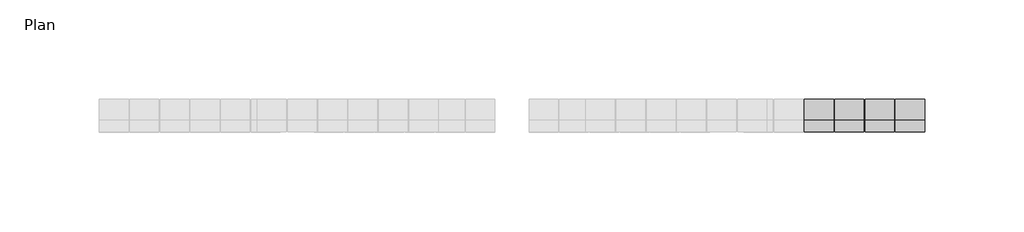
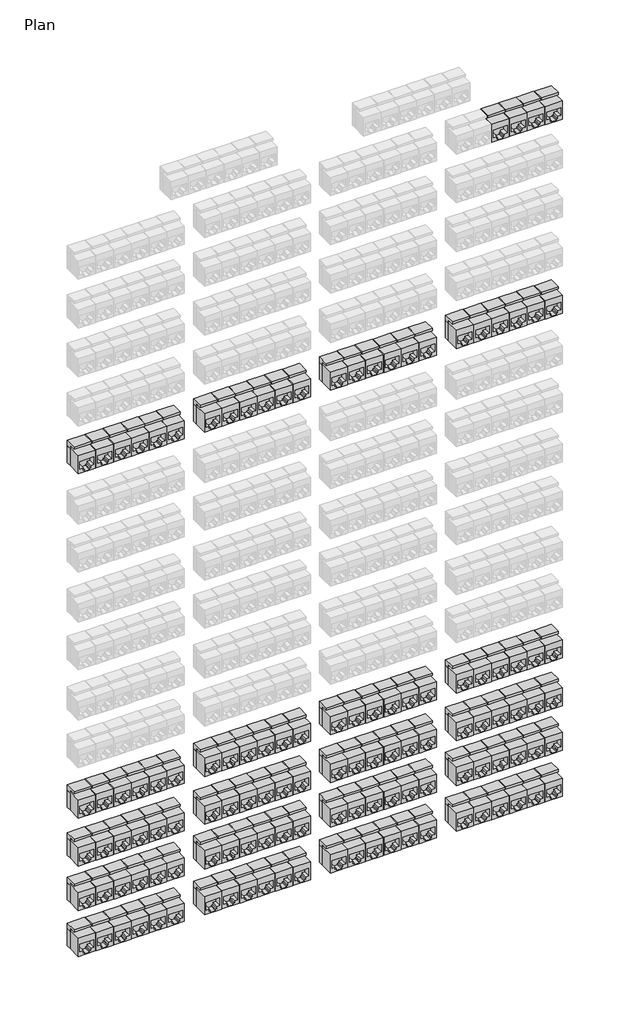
# One storey, part 3 of 3: 124 electric appliances.
"""IFC4 building model written with IfcOpenShell, lengths in millimetres."""

from ifc_helpers import new_model, si_unit, origin, place, context, project, spatial, transform, mapped, element, save
from components import cat_6_282648a7

model = new_model("IFC4")

# Units and contexts
model_context = context("Model", 3, world=origin())
ifc_project = project(units=[si_unit("LENGTHUNIT", "METRE", prefix="MILLI")], contexts=[model_context])

# Site, building, storey
site = spatial("IfcSite", under=ifc_project)
building = spatial("IfcBuilding", under=site)
storey = spatial("IfcBuildingStorey", under=building, Name="Plan", Elevation=0.0)

# Electric appliances
placement = place(None, origin())
cat_6_shape = cat_6_282648a7(model_context)
element("IfcElectricAppliance", 1, ObjectType="Data_Device-Network-Leviton-Connector-Copper-110_Style : CAT 6", at=placement, inside=storey, context=model_context, shape_type="MappedRepresentation", body=[
    mapped(cat_6_shape, transform((2946.484801, -458.5752001, 531.4969969), x_axis=(1.0, 0.0, 0.0), y_axis=(0.0, 0.0, 1.0), z_axis=(0.0, -1.0, 0.0))),
])
element("IfcElectricAppliance", 2, ObjectType="Data_Device-Network-Leviton-Connector-Copper-110_Style : CAT 6", at=placement, inside=storey, context=model_context, shape_type="MappedRepresentation", body=[
    mapped(cat_6_shape, transform((2961.724801, -458.5752001, 531.4969969), x_axis=(1.0, 0.0, 0.0), y_axis=(0.0, 0.0, 1.0), z_axis=(0.0, -1.0, 0.0))),
])
element("IfcElectricAppliance", 3, ObjectType="Data_Device-Network-Leviton-Connector-Copper-110_Style : CAT 6", at=placement, inside=storey, context=model_context, shape_type="MappedRepresentation", body=[
    mapped(cat_6_shape, transform((2976.964801, -458.5752001, 531.4969969), x_axis=(1.0, 0.0, 0.0), y_axis=(0.0, 0.0, 1.0), z_axis=(0.0, -1.0, 0.0))),
])
element("IfcElectricAppliance", 4, ObjectType="Data_Device-Network-Leviton-Connector-Copper-110_Style : CAT 6", at=placement, inside=storey, context=model_context, shape_type="MappedRepresentation", body=[
    mapped(cat_6_shape, transform((2992.204801, -458.5752001, 531.4969969), x_axis=(1.0, 0.0, 0.0), y_axis=(0.0, 0.0, 1.0), z_axis=(0.0, -1.0, 0.0))),
])
element("IfcElectricAppliance", 5, ObjectType="Data_Device-Network-Leviton-Connector-Copper-110_Style : CAT 6", at=placement, inside=storey, context=model_context, shape_type="MappedRepresentation", body=[
    mapped(cat_6_shape, transform((2592.154801, -458.5752001, 355.5488408), x_axis=(1.0, 0.0, 0.0), y_axis=(0.0, 0.0, 1.0), z_axis=(0.0, -1.0, 0.0))),
])
element("IfcElectricAppliance", 6, ObjectType="Data_Device-Network-Leviton-Connector-Copper-110_Style : CAT 6", at=placement, inside=storey, context=model_context, shape_type="MappedRepresentation", body=[
    mapped(cat_6_shape, transform((2607.394801, -458.5752001, 355.5488408), x_axis=(1.0, 0.0, 0.0), y_axis=(0.0, 0.0, 1.0), z_axis=(0.0, -1.0, 0.0))),
])
element("IfcElectricAppliance", 7, ObjectType="Data_Device-Network-Leviton-Connector-Copper-110_Style : CAT 6", at=placement, inside=storey, context=model_context, shape_type="MappedRepresentation", body=[
    mapped(cat_6_shape, transform((2622.634801, -458.5752001, 355.5488408), x_axis=(1.0, 0.0, 0.0), y_axis=(0.0, 0.0, 1.0), z_axis=(0.0, -1.0, 0.0))),
])
element("IfcElectricAppliance", 8, ObjectType="Data_Device-Network-Leviton-Connector-Copper-110_Style : CAT 6", at=placement, inside=storey, context=model_context, shape_type="MappedRepresentation", body=[
    mapped(cat_6_shape, transform((2637.874801, -458.5752001, 355.5488408), x_axis=(1.0, 0.0, 0.0), y_axis=(0.0, 0.0, 1.0), z_axis=(0.0, -1.0, 0.0))),
])
element("IfcElectricAppliance", 9, ObjectType="Data_Device-Network-Leviton-Connector-Copper-110_Style : CAT 6", at=placement, inside=storey, context=model_context, shape_type="MappedRepresentation", body=[
    mapped(cat_6_shape, transform((2653.114801, -458.5752001, 355.5488408), x_axis=(1.0, 0.0, 0.0), y_axis=(0.0, 0.0, 1.0), z_axis=(0.0, -1.0, 0.0))),
])
element("IfcElectricAppliance", 10, ObjectType="Data_Device-Network-Leviton-Connector-Copper-110_Style : CAT 6", at=placement, inside=storey, context=model_context, shape_type="MappedRepresentation", body=[
    mapped(cat_6_shape, transform((2668.354801, -458.5752001, 355.5488408), x_axis=(1.0, 0.0, 0.0), y_axis=(0.0, 0.0, 1.0), z_axis=(0.0, -1.0, 0.0))),
])
element("IfcElectricAppliance", 11, ObjectType="Data_Device-Network-Leviton-Connector-Copper-110_Style : CAT 6", at=placement, inside=storey, context=model_context, shape_type="MappedRepresentation", body=[
    mapped(cat_6_shape, transform((2700.104801, -458.5752001, 355.5488408), x_axis=(1.0, 0.0, 0.0), y_axis=(0.0, 0.0, 1.0), z_axis=(0.0, -1.0, 0.0))),
])
element("IfcElectricAppliance", 12, ObjectType="Data_Device-Network-Leviton-Connector-Copper-110_Style : CAT 6", at=placement, inside=storey, context=model_context, shape_type="MappedRepresentation", body=[
    mapped(cat_6_shape, transform((2715.344801, -458.5752001, 355.5488408), x_axis=(1.0, 0.0, 0.0), y_axis=(0.0, 0.0, 1.0), z_axis=(0.0, -1.0, 0.0))),
])
element("IfcElectricAppliance", 13, ObjectType="Data_Device-Network-Leviton-Connector-Copper-110_Style : CAT 6", at=placement, inside=storey, context=model_context, shape_type="MappedRepresentation", body=[
    mapped(cat_6_shape, transform((2730.584801, -458.5752001, 355.5488408), x_axis=(1.0, 0.0, 0.0), y_axis=(0.0, 0.0, 1.0), z_axis=(0.0, -1.0, 0.0))),
])
element("IfcElectricAppliance", 14, ObjectType="Data_Device-Network-Leviton-Connector-Copper-110_Style : CAT 6", at=placement, inside=storey, context=model_context, shape_type="MappedRepresentation", body=[
    mapped(cat_6_shape, transform((2745.824801, -458.5752001, 355.5488408), x_axis=(1.0, 0.0, 0.0), y_axis=(0.0, 0.0, 1.0), z_axis=(0.0, -1.0, 0.0))),
])
element("IfcElectricAppliance", 15, ObjectType="Data_Device-Network-Leviton-Connector-Copper-110_Style : CAT 6", at=placement, inside=storey, context=model_context, shape_type="MappedRepresentation", body=[
    mapped(cat_6_shape, transform((2761.064801, -458.5752001, 355.5488408), x_axis=(1.0, 0.0, 0.0), y_axis=(0.0, 0.0, 1.0), z_axis=(0.0, -1.0, 0.0))),
])
element("IfcElectricAppliance", 16, ObjectType="Data_Device-Network-Leviton-Connector-Copper-110_Style : CAT 6", at=placement, inside=storey, context=model_context, shape_type="MappedRepresentation", body=[
    mapped(cat_6_shape, transform((2776.304801, -458.5752001, 355.5488408), x_axis=(1.0, 0.0, 0.0), y_axis=(0.0, 0.0, 1.0), z_axis=(0.0, -1.0, 0.0))),
])
element("IfcElectricAppliance", 17, ObjectType="Data_Device-Network-Leviton-Connector-Copper-110_Style : CAT 6", at=placement, inside=storey, context=model_context, shape_type="MappedRepresentation", body=[
    mapped(cat_6_shape, transform((2808.054801, -458.5752001, 355.5488408), x_axis=(1.0, 0.0, 0.0), y_axis=(0.0, 0.0, 1.0), z_axis=(0.0, -1.0, 0.0))),
])
element("IfcElectricAppliance", 18, ObjectType="Data_Device-Network-Leviton-Connector-Copper-110_Style : CAT 6", at=placement, inside=storey, context=model_context, shape_type="MappedRepresentation", body=[
    mapped(cat_6_shape, transform((2838.534801, -458.5752001, 355.5488408), x_axis=(1.0, 0.0, 0.0), y_axis=(0.0, 0.0, 1.0), z_axis=(0.0, -1.0, 0.0))),
])
element("IfcElectricAppliance", 19, ObjectType="Data_Device-Network-Leviton-Connector-Copper-110_Style : CAT 6", at=placement, inside=storey, context=model_context, shape_type="MappedRepresentation", body=[
    mapped(cat_6_shape, transform((2853.774801, -458.5752001, 355.5488408), x_axis=(1.0, 0.0, 0.0), y_axis=(0.0, 0.0, 1.0), z_axis=(0.0, -1.0, 0.0))),
])
element("IfcElectricAppliance", 20, ObjectType="Data_Device-Network-Leviton-Connector-Copper-110_Style : CAT 6", at=placement, inside=storey, context=model_context, shape_type="MappedRepresentation", body=[
    mapped(cat_6_shape, transform((2869.014801, -458.5752001, 355.5488408), x_axis=(1.0, 0.0, 0.0), y_axis=(0.0, 0.0, 1.0), z_axis=(0.0, -1.0, 0.0))),
])
element("IfcElectricAppliance", 21, ObjectType="Data_Device-Network-Leviton-Connector-Copper-110_Style : CAT 6", at=placement, inside=storey, context=model_context, shape_type="MappedRepresentation", body=[
    mapped(cat_6_shape, transform((2884.254801, -458.5752001, 355.5488408), x_axis=(1.0, 0.0, 0.0), y_axis=(0.0, 0.0, 1.0), z_axis=(0.0, -1.0, 0.0))),
])
element("IfcElectricAppliance", 22, ObjectType="Data_Device-Network-Leviton-Connector-Copper-110_Style : CAT 6", at=placement, inside=storey, context=model_context, shape_type="MappedRepresentation", body=[
    mapped(cat_6_shape, transform((2916.004801, -458.5752001, 355.5488408), x_axis=(1.0, 0.0, 0.0), y_axis=(0.0, 0.0, 1.0), z_axis=(0.0, -1.0, 0.0))),
])
element("IfcElectricAppliance", 23, ObjectType="Data_Device-Network-Leviton-Connector-Copper-110_Style : CAT 6", at=placement, inside=storey, context=model_context, shape_type="MappedRepresentation", body=[
    mapped(cat_6_shape, transform((2931.244801, -458.5752001, 355.5488408), x_axis=(1.0, 0.0, 0.0), y_axis=(0.0, 0.0, 1.0), z_axis=(0.0, -1.0, 0.0))),
])
element("IfcElectricAppliance", 24, ObjectType="Data_Device-Network-Leviton-Connector-Copper-110_Style : CAT 6", at=placement, inside=storey, context=model_context, shape_type="MappedRepresentation", body=[
    mapped(cat_6_shape, transform((2946.484801, -458.5752001, 355.5488408), x_axis=(1.0, 0.0, 0.0), y_axis=(0.0, 0.0, 1.0), z_axis=(0.0, -1.0, 0.0))),
])
element("IfcElectricAppliance", 25, ObjectType="Data_Device-Network-Leviton-Connector-Copper-110_Style : CAT 6", at=placement, inside=storey, context=model_context, shape_type="MappedRepresentation", body=[
    mapped(cat_6_shape, transform((2961.724801, -458.5752001, 355.5488408), x_axis=(1.0, 0.0, 0.0), y_axis=(0.0, 0.0, 1.0), z_axis=(0.0, -1.0, 0.0))),
])
element("IfcElectricAppliance", 26, ObjectType="Data_Device-Network-Leviton-Connector-Copper-110_Style : CAT 6", at=placement, inside=storey, context=model_context, shape_type="MappedRepresentation", body=[
    mapped(cat_6_shape, transform((2976.964801, -458.5752001, 355.5488408), x_axis=(1.0, 0.0, 0.0), y_axis=(0.0, 0.0, 1.0), z_axis=(0.0, -1.0, 0.0))),
])
element("IfcElectricAppliance", 27, ObjectType="Data_Device-Network-Leviton-Connector-Copper-110_Style : CAT 6", at=placement, inside=storey, context=model_context, shape_type="MappedRepresentation", body=[
    mapped(cat_6_shape, transform((2992.204801, -458.5752001, 355.5488408), x_axis=(1.0, 0.0, 0.0), y_axis=(0.0, 0.0, 1.0), z_axis=(0.0, -1.0, 0.0))),
])
element("IfcElectricAppliance", 28, ObjectType="Data_Device-Network-Leviton-Connector-Copper-110_Style : CAT 6", at=placement, inside=storey, context=model_context, shape_type="MappedRepresentation", body=[
    mapped(cat_6_shape, transform((2823.294801, -458.5752001, 355.5488408), x_axis=(1.0, 0.0, 0.0), y_axis=(0.0, 0.0, 1.0), z_axis=(0.0, -1.0, 0.0))),
])
element("IfcElectricAppliance", 29, ObjectType="Data_Device-Network-Leviton-Connector-Copper-110_Style : CAT 6", at=placement, inside=storey, context=model_context, shape_type="MappedRepresentation", body=[
    mapped(cat_6_shape, transform((2592.154801, -458.5752001, 43.6789347), x_axis=(1.0, 0.0, 0.0), y_axis=(0.0, 0.0, 1.0), z_axis=(0.0, -1.0, 0.0))),
])
element("IfcElectricAppliance", 30, ObjectType="Data_Device-Network-Leviton-Connector-Copper-110_Style : CAT 6", at=placement, inside=storey, context=model_context, shape_type="MappedRepresentation", body=[
    mapped(cat_6_shape, transform((2607.394801, -458.5752001, 43.6789347), x_axis=(1.0, 0.0, 0.0), y_axis=(0.0, 0.0, 1.0), z_axis=(0.0, -1.0, 0.0))),
])
element("IfcElectricAppliance", 31, ObjectType="Data_Device-Network-Leviton-Connector-Copper-110_Style : CAT 6", at=placement, inside=storey, context=model_context, shape_type="MappedRepresentation", body=[
    mapped(cat_6_shape, transform((2622.634801, -458.5752001, 43.6789347), x_axis=(1.0, 0.0, 0.0), y_axis=(0.0, 0.0, 1.0), z_axis=(0.0, -1.0, 0.0))),
])
element("IfcElectricAppliance", 32, ObjectType="Data_Device-Network-Leviton-Connector-Copper-110_Style : CAT 6", at=placement, inside=storey, context=model_context, shape_type="MappedRepresentation", body=[
    mapped(cat_6_shape, transform((2637.874801, -458.5752001, 43.6789347), x_axis=(1.0, 0.0, 0.0), y_axis=(0.0, 0.0, 1.0), z_axis=(0.0, -1.0, 0.0))),
])
element("IfcElectricAppliance", 33, ObjectType="Data_Device-Network-Leviton-Connector-Copper-110_Style : CAT 6", at=placement, inside=storey, context=model_context, shape_type="MappedRepresentation", body=[
    mapped(cat_6_shape, transform((2653.114801, -458.5752001, 43.6789347), x_axis=(1.0, 0.0, 0.0), y_axis=(0.0, 0.0, 1.0), z_axis=(0.0, -1.0, 0.0))),
])
element("IfcElectricAppliance", 34, ObjectType="Data_Device-Network-Leviton-Connector-Copper-110_Style : CAT 6", at=placement, inside=storey, context=model_context, shape_type="MappedRepresentation", body=[
    mapped(cat_6_shape, transform((2668.354801, -458.5752001, 43.6789347), x_axis=(1.0, 0.0, 0.0), y_axis=(0.0, 0.0, 1.0), z_axis=(0.0, -1.0, 0.0))),
])
element("IfcElectricAppliance", 35, ObjectType="Data_Device-Network-Leviton-Connector-Copper-110_Style : CAT 6", at=placement, inside=storey, context=model_context, shape_type="MappedRepresentation", body=[
    mapped(cat_6_shape, transform((2916.004801, -458.5752001, 43.6789347), x_axis=(1.0, 0.0, 0.0), y_axis=(0.0, 0.0, 1.0), z_axis=(0.0, -1.0, 0.0))),
])
element("IfcElectricAppliance", 36, ObjectType="Data_Device-Network-Leviton-Connector-Copper-110_Style : CAT 6", at=placement, inside=storey, context=model_context, shape_type="MappedRepresentation", body=[
    mapped(cat_6_shape, transform((2931.244801, -458.5752001, 43.6789347), x_axis=(1.0, 0.0, 0.0), y_axis=(0.0, 0.0, 1.0), z_axis=(0.0, -1.0, 0.0))),
])
element("IfcElectricAppliance", 37, ObjectType="Data_Device-Network-Leviton-Connector-Copper-110_Style : CAT 6", at=placement, inside=storey, context=model_context, shape_type="MappedRepresentation", body=[
    mapped(cat_6_shape, transform((2946.484801, -458.5752001, 43.6789347), x_axis=(1.0, 0.0, 0.0), y_axis=(0.0, 0.0, 1.0), z_axis=(0.0, -1.0, 0.0))),
])
element("IfcElectricAppliance", 38, ObjectType="Data_Device-Network-Leviton-Connector-Copper-110_Style : CAT 6", at=placement, inside=storey, context=model_context, shape_type="MappedRepresentation", body=[
    mapped(cat_6_shape, transform((2961.724801, -458.5752001, 43.6789347), x_axis=(1.0, 0.0, 0.0), y_axis=(0.0, 0.0, 1.0), z_axis=(0.0, -1.0, 0.0))),
])
element("IfcElectricAppliance", 39, ObjectType="Data_Device-Network-Leviton-Connector-Copper-110_Style : CAT 6", at=placement, inside=storey, context=model_context, shape_type="MappedRepresentation", body=[
    mapped(cat_6_shape, transform((2976.964801, -458.5752001, 43.6789347), x_axis=(1.0, 0.0, 0.0), y_axis=(0.0, 0.0, 1.0), z_axis=(0.0, -1.0, 0.0))),
])
element("IfcElectricAppliance", 40, ObjectType="Data_Device-Network-Leviton-Connector-Copper-110_Style : CAT 6", at=placement, inside=storey, context=model_context, shape_type="MappedRepresentation", body=[
    mapped(cat_6_shape, transform((2992.204801, -458.5752001, 43.6789347), x_axis=(1.0, 0.0, 0.0), y_axis=(0.0, 0.0, 1.0), z_axis=(0.0, -1.0, 0.0))),
])
element("IfcElectricAppliance", 41, ObjectType="Data_Device-Network-Leviton-Connector-Copper-110_Style : CAT 6", at=placement, inside=storey, context=model_context, shape_type="MappedRepresentation", body=[
    mapped(cat_6_shape, transform((2700.104801, -458.5752001, 43.6789347), x_axis=(1.0, 0.0, 0.0), y_axis=(0.0, 0.0, 1.0), z_axis=(0.0, -1.0, 0.0))),
])
element("IfcElectricAppliance", 42, ObjectType="Data_Device-Network-Leviton-Connector-Copper-110_Style : CAT 6", at=placement, inside=storey, context=model_context, shape_type="MappedRepresentation", body=[
    mapped(cat_6_shape, transform((2715.344801, -458.5752001, 43.6789347), x_axis=(1.0, 0.0, 0.0), y_axis=(0.0, 0.0, 1.0), z_axis=(0.0, -1.0, 0.0))),
])
element("IfcElectricAppliance", 43, ObjectType="Data_Device-Network-Leviton-Connector-Copper-110_Style : CAT 6", at=placement, inside=storey, context=model_context, shape_type="MappedRepresentation", body=[
    mapped(cat_6_shape, transform((2730.584801, -458.5752001, 43.6789347), x_axis=(1.0, 0.0, 0.0), y_axis=(0.0, 0.0, 1.0), z_axis=(0.0, -1.0, 0.0))),
])
element("IfcElectricAppliance", 44, ObjectType="Data_Device-Network-Leviton-Connector-Copper-110_Style : CAT 6", at=placement, inside=storey, context=model_context, shape_type="MappedRepresentation", body=[
    mapped(cat_6_shape, transform((2745.824801, -458.5752001, 43.6789347), x_axis=(1.0, 0.0, 0.0), y_axis=(0.0, 0.0, 1.0), z_axis=(0.0, -1.0, 0.0))),
])
element("IfcElectricAppliance", 45, ObjectType="Data_Device-Network-Leviton-Connector-Copper-110_Style : CAT 6", at=placement, inside=storey, context=model_context, shape_type="MappedRepresentation", body=[
    mapped(cat_6_shape, transform((2761.064801, -458.5752001, 43.6789347), x_axis=(1.0, 0.0, 0.0), y_axis=(0.0, 0.0, 1.0), z_axis=(0.0, -1.0, 0.0))),
])
element("IfcElectricAppliance", 46, ObjectType="Data_Device-Network-Leviton-Connector-Copper-110_Style : CAT 6", at=placement, inside=storey, context=model_context, shape_type="MappedRepresentation", body=[
    mapped(cat_6_shape, transform((2776.304801, -458.5752001, 43.6789347), x_axis=(1.0, 0.0, 0.0), y_axis=(0.0, 0.0, 1.0), z_axis=(0.0, -1.0, 0.0))),
])
element("IfcElectricAppliance", 47, ObjectType="Data_Device-Network-Leviton-Connector-Copper-110_Style : CAT 6", at=placement, inside=storey, context=model_context, shape_type="MappedRepresentation", body=[
    mapped(cat_6_shape, transform((2808.054801, -458.5752001, 43.6789347), x_axis=(1.0, 0.0, 0.0), y_axis=(0.0, 0.0, 1.0), z_axis=(0.0, -1.0, 0.0))),
])
element("IfcElectricAppliance", 48, ObjectType="Data_Device-Network-Leviton-Connector-Copper-110_Style : CAT 6", at=placement, inside=storey, context=model_context, shape_type="MappedRepresentation", body=[
    mapped(cat_6_shape, transform((2823.294801, -458.5752001, 43.6789347), x_axis=(1.0, 0.0, 0.0), y_axis=(0.0, 0.0, 1.0), z_axis=(0.0, -1.0, 0.0))),
])
element("IfcElectricAppliance", 49, ObjectType="Data_Device-Network-Leviton-Connector-Copper-110_Style : CAT 6", at=placement, inside=storey, context=model_context, shape_type="MappedRepresentation", body=[
    mapped(cat_6_shape, transform((2838.534801, -458.5752001, 43.6789347), x_axis=(1.0, 0.0, 0.0), y_axis=(0.0, 0.0, 1.0), z_axis=(0.0, -1.0, 0.0))),
])
element("IfcElectricAppliance", 50, ObjectType="Data_Device-Network-Leviton-Connector-Copper-110_Style : CAT 6", at=placement, inside=storey, context=model_context, shape_type="MappedRepresentation", body=[
    mapped(cat_6_shape, transform((2853.774801, -458.5752001, 43.6789347), x_axis=(1.0, 0.0, 0.0), y_axis=(0.0, 0.0, 1.0), z_axis=(0.0, -1.0, 0.0))),
])
element("IfcElectricAppliance", 51, ObjectType="Data_Device-Network-Leviton-Connector-Copper-110_Style : CAT 6", at=placement, inside=storey, context=model_context, shape_type="MappedRepresentation", body=[
    mapped(cat_6_shape, transform((2869.014801, -458.5752001, 43.6789347), x_axis=(1.0, 0.0, 0.0), y_axis=(0.0, 0.0, 1.0), z_axis=(0.0, -1.0, 0.0))),
])
element("IfcElectricAppliance", 52, ObjectType="Data_Device-Network-Leviton-Connector-Copper-110_Style : CAT 6", at=placement, inside=storey, context=model_context, shape_type="MappedRepresentation", body=[
    mapped(cat_6_shape, transform((2884.254801, -458.5752001, 43.6789347), x_axis=(1.0, 0.0, 0.0), y_axis=(0.0, 0.0, 1.0), z_axis=(0.0, -1.0, 0.0))),
])
element("IfcElectricAppliance", 53, ObjectType="Data_Device-Network-Leviton-Connector-Copper-110_Style : CAT 6", at=placement, inside=storey, context=model_context, shape_type="MappedRepresentation", body=[
    mapped(cat_6_shape, transform((2592.154801, -458.5752001, 0.4989347), x_axis=(1.0, 0.0, 0.0), y_axis=(0.0, 0.0, 1.0), z_axis=(0.0, -1.0, 0.0))),
])
element("IfcElectricAppliance", 54, ObjectType="Data_Device-Network-Leviton-Connector-Copper-110_Style : CAT 6", at=placement, inside=storey, context=model_context, shape_type="MappedRepresentation", body=[
    mapped(cat_6_shape, transform((2607.394801, -458.5752001, 0.4989347), x_axis=(1.0, 0.0, 0.0), y_axis=(0.0, 0.0, 1.0), z_axis=(0.0, -1.0, 0.0))),
])
element("IfcElectricAppliance", 55, ObjectType="Data_Device-Network-Leviton-Connector-Copper-110_Style : CAT 6", at=placement, inside=storey, context=model_context, shape_type="MappedRepresentation", body=[
    mapped(cat_6_shape, transform((2622.634801, -458.5752001, 0.4989347), x_axis=(1.0, 0.0, 0.0), y_axis=(0.0, 0.0, 1.0), z_axis=(0.0, -1.0, 0.0))),
])
element("IfcElectricAppliance", 56, ObjectType="Data_Device-Network-Leviton-Connector-Copper-110_Style : CAT 6", at=placement, inside=storey, context=model_context, shape_type="MappedRepresentation", body=[
    mapped(cat_6_shape, transform((2637.874801, -458.5752001, 0.4989347), x_axis=(1.0, 0.0, 0.0), y_axis=(0.0, 0.0, 1.0), z_axis=(0.0, -1.0, 0.0))),
])
element("IfcElectricAppliance", 57, ObjectType="Data_Device-Network-Leviton-Connector-Copper-110_Style : CAT 6", at=placement, inside=storey, context=model_context, shape_type="MappedRepresentation", body=[
    mapped(cat_6_shape, transform((2653.114801, -458.5752001, 0.4989347), x_axis=(1.0, 0.0, 0.0), y_axis=(0.0, 0.0, 1.0), z_axis=(0.0, -1.0, 0.0))),
])
element("IfcElectricAppliance", 58, ObjectType="Data_Device-Network-Leviton-Connector-Copper-110_Style : CAT 6", at=placement, inside=storey, context=model_context, shape_type="MappedRepresentation", body=[
    mapped(cat_6_shape, transform((2668.354801, -458.5752001, 0.4989347), x_axis=(1.0, 0.0, 0.0), y_axis=(0.0, 0.0, 1.0), z_axis=(0.0, -1.0, 0.0))),
])
element("IfcElectricAppliance", 59, ObjectType="Data_Device-Network-Leviton-Connector-Copper-110_Style : CAT 6", at=placement, inside=storey, context=model_context, shape_type="MappedRepresentation", body=[
    mapped(cat_6_shape, transform((2700.104801, -458.5752001, 0.4989347), x_axis=(1.0, 0.0, 0.0), y_axis=(0.0, 0.0, 1.0), z_axis=(0.0, -1.0, 0.0))),
])
element("IfcElectricAppliance", 60, ObjectType="Data_Device-Network-Leviton-Connector-Copper-110_Style : CAT 6", at=placement, inside=storey, context=model_context, shape_type="MappedRepresentation", body=[
    mapped(cat_6_shape, transform((2715.344801, -458.5752001, 0.4989347), x_axis=(1.0, 0.0, 0.0), y_axis=(0.0, 0.0, 1.0), z_axis=(0.0, -1.0, 0.0))),
])
element("IfcElectricAppliance", 61, ObjectType="Data_Device-Network-Leviton-Connector-Copper-110_Style : CAT 6", at=placement, inside=storey, context=model_context, shape_type="MappedRepresentation", body=[
    mapped(cat_6_shape, transform((2730.584801, -458.5752001, 0.4989347), x_axis=(1.0, 0.0, 0.0), y_axis=(0.0, 0.0, 1.0), z_axis=(0.0, -1.0, 0.0))),
])
element("IfcElectricAppliance", 62, ObjectType="Data_Device-Network-Leviton-Connector-Copper-110_Style : CAT 6", at=placement, inside=storey, context=model_context, shape_type="MappedRepresentation", body=[
    mapped(cat_6_shape, transform((2745.824801, -458.5752001, 0.4989347), x_axis=(1.0, 0.0, 0.0), y_axis=(0.0, 0.0, 1.0), z_axis=(0.0, -1.0, 0.0))),
])
element("IfcElectricAppliance", 63, ObjectType="Data_Device-Network-Leviton-Connector-Copper-110_Style : CAT 6", at=placement, inside=storey, context=model_context, shape_type="MappedRepresentation", body=[
    mapped(cat_6_shape, transform((2761.064801, -458.5752001, 0.4989347), x_axis=(1.0, 0.0, 0.0), y_axis=(0.0, 0.0, 1.0), z_axis=(0.0, -1.0, 0.0))),
])
element("IfcElectricAppliance", 64, ObjectType="Data_Device-Network-Leviton-Connector-Copper-110_Style : CAT 6", at=placement, inside=storey, context=model_context, shape_type="MappedRepresentation", body=[
    mapped(cat_6_shape, transform((2776.304801, -458.5752001, 0.4989347), x_axis=(1.0, 0.0, 0.0), y_axis=(0.0, 0.0, 1.0), z_axis=(0.0, -1.0, 0.0))),
])
element("IfcElectricAppliance", 65, ObjectType="Data_Device-Network-Leviton-Connector-Copper-110_Style : CAT 6", at=placement, inside=storey, context=model_context, shape_type="MappedRepresentation", body=[
    mapped(cat_6_shape, transform((2808.054801, -458.5752001, 0.4989347), x_axis=(1.0, 0.0, 0.0), y_axis=(0.0, 0.0, 1.0), z_axis=(0.0, -1.0, 0.0))),
])
element("IfcElectricAppliance", 66, ObjectType="Data_Device-Network-Leviton-Connector-Copper-110_Style : CAT 6", at=placement, inside=storey, context=model_context, shape_type="MappedRepresentation", body=[
    mapped(cat_6_shape, transform((2838.534801, -458.5752001, 0.4989347), x_axis=(1.0, 0.0, 0.0), y_axis=(0.0, 0.0, 1.0), z_axis=(0.0, -1.0, 0.0))),
])
element("IfcElectricAppliance", 67, ObjectType="Data_Device-Network-Leviton-Connector-Copper-110_Style : CAT 6", at=placement, inside=storey, context=model_context, shape_type="MappedRepresentation", body=[
    mapped(cat_6_shape, transform((2853.774801, -458.5752001, 0.4989347), x_axis=(1.0, 0.0, 0.0), y_axis=(0.0, 0.0, 1.0), z_axis=(0.0, -1.0, 0.0))),
])
element("IfcElectricAppliance", 68, ObjectType="Data_Device-Network-Leviton-Connector-Copper-110_Style : CAT 6", at=placement, inside=storey, context=model_context, shape_type="MappedRepresentation", body=[
    mapped(cat_6_shape, transform((2869.014801, -458.5752001, 0.4989347), x_axis=(1.0, 0.0, 0.0), y_axis=(0.0, 0.0, 1.0), z_axis=(0.0, -1.0, 0.0))),
])
element("IfcElectricAppliance", 69, ObjectType="Data_Device-Network-Leviton-Connector-Copper-110_Style : CAT 6", at=placement, inside=storey, context=model_context, shape_type="MappedRepresentation", body=[
    mapped(cat_6_shape, transform((2884.254801, -458.5752001, 0.4989347), x_axis=(1.0, 0.0, 0.0), y_axis=(0.0, 0.0, 1.0), z_axis=(0.0, -1.0, 0.0))),
])
element("IfcElectricAppliance", 70, ObjectType="Data_Device-Network-Leviton-Connector-Copper-110_Style : CAT 6", at=placement, inside=storey, context=model_context, shape_type="MappedRepresentation", body=[
    mapped(cat_6_shape, transform((2916.004801, -458.5752001, 0.4989347), x_axis=(1.0, 0.0, 0.0), y_axis=(0.0, 0.0, 1.0), z_axis=(0.0, -1.0, 0.0))),
])
element("IfcElectricAppliance", 71, ObjectType="Data_Device-Network-Leviton-Connector-Copper-110_Style : CAT 6", at=placement, inside=storey, context=model_context, shape_type="MappedRepresentation", body=[
    mapped(cat_6_shape, transform((2931.244801, -458.5752001, 0.4989347), x_axis=(1.0, 0.0, 0.0), y_axis=(0.0, 0.0, 1.0), z_axis=(0.0, -1.0, 0.0))),
])
element("IfcElectricAppliance", 72, ObjectType="Data_Device-Network-Leviton-Connector-Copper-110_Style : CAT 6", at=placement, inside=storey, context=model_context, shape_type="MappedRepresentation", body=[
    mapped(cat_6_shape, transform((2946.484801, -458.5752001, 0.4989347), x_axis=(1.0, 0.0, 0.0), y_axis=(0.0, 0.0, 1.0), z_axis=(0.0, -1.0, 0.0))),
])
element("IfcElectricAppliance", 73, ObjectType="Data_Device-Network-Leviton-Connector-Copper-110_Style : CAT 6", at=placement, inside=storey, context=model_context, shape_type="MappedRepresentation", body=[
    mapped(cat_6_shape, transform((2961.724801, -458.5752001, 0.4989347), x_axis=(1.0, 0.0, 0.0), y_axis=(0.0, 0.0, 1.0), z_axis=(0.0, -1.0, 0.0))),
])
element("IfcElectricAppliance", 74, ObjectType="Data_Device-Network-Leviton-Connector-Copper-110_Style : CAT 6", at=placement, inside=storey, context=model_context, shape_type="MappedRepresentation", body=[
    mapped(cat_6_shape, transform((2976.964801, -458.5752001, 0.4989347), x_axis=(1.0, 0.0, 0.0), y_axis=(0.0, 0.0, 1.0), z_axis=(0.0, -1.0, 0.0))),
])
element("IfcElectricAppliance", 75, ObjectType="Data_Device-Network-Leviton-Connector-Copper-110_Style : CAT 6", at=placement, inside=storey, context=model_context, shape_type="MappedRepresentation", body=[
    mapped(cat_6_shape, transform((2992.204801, -458.5752001, 0.4989347), x_axis=(1.0, 0.0, 0.0), y_axis=(0.0, 0.0, 1.0), z_axis=(0.0, -1.0, 0.0))),
])
element("IfcElectricAppliance", 76, ObjectType="Data_Device-Network-Leviton-Connector-Copper-110_Style : CAT 6", at=placement, inside=storey, context=model_context, shape_type="MappedRepresentation", body=[
    mapped(cat_6_shape, transform((2823.294801, -458.5752001, 0.4989347), x_axis=(1.0, 0.0, 0.0), y_axis=(0.0, 0.0, 1.0), z_axis=(0.0, -1.0, 0.0))),
])
element("IfcElectricAppliance", 77, ObjectType="Data_Device-Network-Leviton-Connector-Copper-110_Style : CAT 6", at=placement, inside=storey, context=model_context, shape_type="MappedRepresentation", body=[
    mapped(cat_6_shape, transform((2592.154801, -458.5752001, -40.0192608), x_axis=(1.0, 0.0, 0.0), y_axis=(0.0, 0.0, 1.0), z_axis=(0.0, -1.0, 0.0))),
])
element("IfcElectricAppliance", 78, ObjectType="Data_Device-Network-Leviton-Connector-Copper-110_Style : CAT 6", at=placement, inside=storey, context=model_context, shape_type="MappedRepresentation", body=[
    mapped(cat_6_shape, transform((2607.394801, -458.5752001, -40.0192608), x_axis=(1.0, 0.0, 0.0), y_axis=(0.0, 0.0, 1.0), z_axis=(0.0, -1.0, 0.0))),
])
element("IfcElectricAppliance", 79, ObjectType="Data_Device-Network-Leviton-Connector-Copper-110_Style : CAT 6", at=placement, inside=storey, context=model_context, shape_type="MappedRepresentation", body=[
    mapped(cat_6_shape, transform((2622.634801, -458.5752001, -40.0192608), x_axis=(1.0, 0.0, 0.0), y_axis=(0.0, 0.0, 1.0), z_axis=(0.0, -1.0, 0.0))),
])
element("IfcElectricAppliance", 80, ObjectType="Data_Device-Network-Leviton-Connector-Copper-110_Style : CAT 6", at=placement, inside=storey, context=model_context, shape_type="MappedRepresentation", body=[
    mapped(cat_6_shape, transform((2637.874801, -458.5752001, -40.0192608), x_axis=(1.0, 0.0, 0.0), y_axis=(0.0, 0.0, 1.0), z_axis=(0.0, -1.0, 0.0))),
])
element("IfcElectricAppliance", 81, ObjectType="Data_Device-Network-Leviton-Connector-Copper-110_Style : CAT 6", at=placement, inside=storey, context=model_context, shape_type="MappedRepresentation", body=[
    mapped(cat_6_shape, transform((2653.114801, -458.5752001, -40.0192608), x_axis=(1.0, 0.0, 0.0), y_axis=(0.0, 0.0, 1.0), z_axis=(0.0, -1.0, 0.0))),
])
element("IfcElectricAppliance", 82, ObjectType="Data_Device-Network-Leviton-Connector-Copper-110_Style : CAT 6", at=placement, inside=storey, context=model_context, shape_type="MappedRepresentation", body=[
    mapped(cat_6_shape, transform((2668.354801, -458.5752001, -40.0192608), x_axis=(1.0, 0.0, 0.0), y_axis=(0.0, 0.0, 1.0), z_axis=(0.0, -1.0, 0.0))),
])
element("IfcElectricAppliance", 83, ObjectType="Data_Device-Network-Leviton-Connector-Copper-110_Style : CAT 6", at=placement, inside=storey, context=model_context, shape_type="MappedRepresentation", body=[
    mapped(cat_6_shape, transform((2700.104801, -458.5752001, -40.0192608), x_axis=(1.0, 0.0, 0.0), y_axis=(0.0, 0.0, 1.0), z_axis=(0.0, -1.0, 0.0))),
])
element("IfcElectricAppliance", 84, ObjectType="Data_Device-Network-Leviton-Connector-Copper-110_Style : CAT 6", at=placement, inside=storey, context=model_context, shape_type="MappedRepresentation", body=[
    mapped(cat_6_shape, transform((2715.344801, -458.5752001, -40.0192608), x_axis=(1.0, 0.0, 0.0), y_axis=(0.0, 0.0, 1.0), z_axis=(0.0, -1.0, 0.0))),
])
element("IfcElectricAppliance", 85, ObjectType="Data_Device-Network-Leviton-Connector-Copper-110_Style : CAT 6", at=placement, inside=storey, context=model_context, shape_type="MappedRepresentation", body=[
    mapped(cat_6_shape, transform((2730.584801, -458.5752001, -40.0192608), x_axis=(1.0, 0.0, 0.0), y_axis=(0.0, 0.0, 1.0), z_axis=(0.0, -1.0, 0.0))),
])
element("IfcElectricAppliance", 86, ObjectType="Data_Device-Network-Leviton-Connector-Copper-110_Style : CAT 6", at=placement, inside=storey, context=model_context, shape_type="MappedRepresentation", body=[
    mapped(cat_6_shape, transform((2745.824801, -458.5752001, -40.0192608), x_axis=(1.0, 0.0, 0.0), y_axis=(0.0, 0.0, 1.0), z_axis=(0.0, -1.0, 0.0))),
])
element("IfcElectricAppliance", 87, ObjectType="Data_Device-Network-Leviton-Connector-Copper-110_Style : CAT 6", at=placement, inside=storey, context=model_context, shape_type="MappedRepresentation", body=[
    mapped(cat_6_shape, transform((2761.064801, -458.5752001, -40.0192608), x_axis=(1.0, 0.0, 0.0), y_axis=(0.0, 0.0, 1.0), z_axis=(0.0, -1.0, 0.0))),
])
element("IfcElectricAppliance", 88, ObjectType="Data_Device-Network-Leviton-Connector-Copper-110_Style : CAT 6", at=placement, inside=storey, context=model_context, shape_type="MappedRepresentation", body=[
    mapped(cat_6_shape, transform((2776.304801, -458.5752001, -40.0192608), x_axis=(1.0, 0.0, 0.0), y_axis=(0.0, 0.0, 1.0), z_axis=(0.0, -1.0, 0.0))),
])
element("IfcElectricAppliance", 89, ObjectType="Data_Device-Network-Leviton-Connector-Copper-110_Style : CAT 6", at=placement, inside=storey, context=model_context, shape_type="MappedRepresentation", body=[
    mapped(cat_6_shape, transform((2808.054801, -458.5752001, -40.0192608), x_axis=(1.0, 0.0, 0.0), y_axis=(0.0, 0.0, 1.0), z_axis=(0.0, -1.0, 0.0))),
])
element("IfcElectricAppliance", 90, ObjectType="Data_Device-Network-Leviton-Connector-Copper-110_Style : CAT 6", at=placement, inside=storey, context=model_context, shape_type="MappedRepresentation", body=[
    mapped(cat_6_shape, transform((2823.294801, -458.5752001, -40.0192608), x_axis=(1.0, 0.0, 0.0), y_axis=(0.0, 0.0, 1.0), z_axis=(0.0, -1.0, 0.0))),
])
element("IfcElectricAppliance", 91, ObjectType="Data_Device-Network-Leviton-Connector-Copper-110_Style : CAT 6", at=placement, inside=storey, context=model_context, shape_type="MappedRepresentation", body=[
    mapped(cat_6_shape, transform((2838.534801, -458.5752001, -40.0192608), x_axis=(1.0, 0.0, 0.0), y_axis=(0.0, 0.0, 1.0), z_axis=(0.0, -1.0, 0.0))),
])
element("IfcElectricAppliance", 92, ObjectType="Data_Device-Network-Leviton-Connector-Copper-110_Style : CAT 6", at=placement, inside=storey, context=model_context, shape_type="MappedRepresentation", body=[
    mapped(cat_6_shape, transform((2853.774801, -458.5752001, -40.0192608), x_axis=(1.0, 0.0, 0.0), y_axis=(0.0, 0.0, 1.0), z_axis=(0.0, -1.0, 0.0))),
])
element("IfcElectricAppliance", 93, ObjectType="Data_Device-Network-Leviton-Connector-Copper-110_Style : CAT 6", at=placement, inside=storey, context=model_context, shape_type="MappedRepresentation", body=[
    mapped(cat_6_shape, transform((2869.014801, -458.5752001, -40.0192608), x_axis=(1.0, 0.0, 0.0), y_axis=(0.0, 0.0, 1.0), z_axis=(0.0, -1.0, 0.0))),
])
element("IfcElectricAppliance", 94, ObjectType="Data_Device-Network-Leviton-Connector-Copper-110_Style : CAT 6", at=placement, inside=storey, context=model_context, shape_type="MappedRepresentation", body=[
    mapped(cat_6_shape, transform((2884.254801, -458.5752001, -40.0192608), x_axis=(1.0, 0.0, 0.0), y_axis=(0.0, 0.0, 1.0), z_axis=(0.0, -1.0, 0.0))),
])
element("IfcElectricAppliance", 95, ObjectType="Data_Device-Network-Leviton-Connector-Copper-110_Style : CAT 6", at=placement, inside=storey, context=model_context, shape_type="MappedRepresentation", body=[
    mapped(cat_6_shape, transform((2916.004801, -458.5752001, -40.0192608), x_axis=(1.0, 0.0, 0.0), y_axis=(0.0, 0.0, 1.0), z_axis=(0.0, -1.0, 0.0))),
])
element("IfcElectricAppliance", 96, ObjectType="Data_Device-Network-Leviton-Connector-Copper-110_Style : CAT 6", at=placement, inside=storey, context=model_context, shape_type="MappedRepresentation", body=[
    mapped(cat_6_shape, transform((2931.244801, -458.5752001, -40.0192608), x_axis=(1.0, 0.0, 0.0), y_axis=(0.0, 0.0, 1.0), z_axis=(0.0, -1.0, 0.0))),
])
element("IfcElectricAppliance", 97, ObjectType="Data_Device-Network-Leviton-Connector-Copper-110_Style : CAT 6", at=placement, inside=storey, context=model_context, shape_type="MappedRepresentation", body=[
    mapped(cat_6_shape, transform((2946.484801, -458.5752001, -40.0192608), x_axis=(1.0, 0.0, 0.0), y_axis=(0.0, 0.0, 1.0), z_axis=(0.0, -1.0, 0.0))),
])
element("IfcElectricAppliance", 98, ObjectType="Data_Device-Network-Leviton-Connector-Copper-110_Style : CAT 6", at=placement, inside=storey, context=model_context, shape_type="MappedRepresentation", body=[
    mapped(cat_6_shape, transform((2961.724801, -458.5752001, -40.0192608), x_axis=(1.0, 0.0, 0.0), y_axis=(0.0, 0.0, 1.0), z_axis=(0.0, -1.0, 0.0))),
])
element("IfcElectricAppliance", 99, ObjectType="Data_Device-Network-Leviton-Connector-Copper-110_Style : CAT 6", at=placement, inside=storey, context=model_context, shape_type="MappedRepresentation", body=[
    mapped(cat_6_shape, transform((2976.964801, -458.5752001, -40.0192608), x_axis=(1.0, 0.0, 0.0), y_axis=(0.0, 0.0, 1.0), z_axis=(0.0, -1.0, 0.0))),
])
element("IfcElectricAppliance", 100, ObjectType="Data_Device-Network-Leviton-Connector-Copper-110_Style : CAT 6", at=placement, inside=storey, context=model_context, shape_type="MappedRepresentation", body=[
    mapped(cat_6_shape, transform((2992.204801, -458.5752001, -40.0192608), x_axis=(1.0, 0.0, 0.0), y_axis=(0.0, 0.0, 1.0), z_axis=(0.0, -1.0, 0.0))),
])
element("IfcElectricAppliance", 101, ObjectType="Data_Device-Network-Leviton-Connector-Copper-110_Style : CAT 6", at=placement, inside=storey, context=model_context, shape_type="MappedRepresentation", body=[
    mapped(cat_6_shape, transform((2592.154801, -458.5752001, -81.4212608), x_axis=(1.0, 0.0, 0.0), y_axis=(0.0, 0.0, 1.0), z_axis=(0.0, -1.0, 0.0))),
])
element("IfcElectricAppliance", 102, ObjectType="Data_Device-Network-Leviton-Connector-Copper-110_Style : CAT 6", at=placement, inside=storey, context=model_context, shape_type="MappedRepresentation", body=[
    mapped(cat_6_shape, transform((2607.394801, -458.5752001, -81.4212608), x_axis=(1.0, 0.0, 0.0), y_axis=(0.0, 0.0, 1.0), z_axis=(0.0, -1.0, 0.0))),
])
element("IfcElectricAppliance", 103, ObjectType="Data_Device-Network-Leviton-Connector-Copper-110_Style : CAT 6", at=placement, inside=storey, context=model_context, shape_type="MappedRepresentation", body=[
    mapped(cat_6_shape, transform((2622.634801, -458.5752001, -81.4212608), x_axis=(1.0, 0.0, 0.0), y_axis=(0.0, 0.0, 1.0), z_axis=(0.0, -1.0, 0.0))),
])
element("IfcElectricAppliance", 104, ObjectType="Data_Device-Network-Leviton-Connector-Copper-110_Style : CAT 6", at=placement, inside=storey, context=model_context, shape_type="MappedRepresentation", body=[
    mapped(cat_6_shape, transform((2637.874801, -458.5752001, -81.4212608), x_axis=(1.0, 0.0, 0.0), y_axis=(0.0, 0.0, 1.0), z_axis=(0.0, -1.0, 0.0))),
])
element("IfcElectricAppliance", 105, ObjectType="Data_Device-Network-Leviton-Connector-Copper-110_Style : CAT 6", at=placement, inside=storey, context=model_context, shape_type="MappedRepresentation", body=[
    mapped(cat_6_shape, transform((2653.114801, -458.5752001, -81.4212608), x_axis=(1.0, 0.0, 0.0), y_axis=(0.0, 0.0, 1.0), z_axis=(0.0, -1.0, 0.0))),
])
element("IfcElectricAppliance", 106, ObjectType="Data_Device-Network-Leviton-Connector-Copper-110_Style : CAT 6", at=placement, inside=storey, context=model_context, shape_type="MappedRepresentation", body=[
    mapped(cat_6_shape, transform((2668.354801, -458.5752001, -81.4212608), x_axis=(1.0, 0.0, 0.0), y_axis=(0.0, 0.0, 1.0), z_axis=(0.0, -1.0, 0.0))),
])
element("IfcElectricAppliance", 107, ObjectType="Data_Device-Network-Leviton-Connector-Copper-110_Style : CAT 6", at=placement, inside=storey, context=model_context, shape_type="MappedRepresentation", body=[
    mapped(cat_6_shape, transform((2700.104801, -458.5752001, -81.4212608), x_axis=(1.0, 0.0, 0.0), y_axis=(0.0, 0.0, 1.0), z_axis=(0.0, -1.0, 0.0))),
])
element("IfcElectricAppliance", 108, ObjectType="Data_Device-Network-Leviton-Connector-Copper-110_Style : CAT 6", at=placement, inside=storey, context=model_context, shape_type="MappedRepresentation", body=[
    mapped(cat_6_shape, transform((2715.344801, -458.5752001, -81.4212608), x_axis=(1.0, 0.0, 0.0), y_axis=(0.0, 0.0, 1.0), z_axis=(0.0, -1.0, 0.0))),
])
element("IfcElectricAppliance", 109, ObjectType="Data_Device-Network-Leviton-Connector-Copper-110_Style : CAT 6", at=placement, inside=storey, context=model_context, shape_type="MappedRepresentation", body=[
    mapped(cat_6_shape, transform((2730.584801, -458.5752001, -81.4212608), x_axis=(1.0, 0.0, 0.0), y_axis=(0.0, 0.0, 1.0), z_axis=(0.0, -1.0, 0.0))),
])
element("IfcElectricAppliance", 110, ObjectType="Data_Device-Network-Leviton-Connector-Copper-110_Style : CAT 6", at=placement, inside=storey, context=model_context, shape_type="MappedRepresentation", body=[
    mapped(cat_6_shape, transform((2745.824801, -458.5752001, -81.4212608), x_axis=(1.0, 0.0, 0.0), y_axis=(0.0, 0.0, 1.0), z_axis=(0.0, -1.0, 0.0))),
])
element("IfcElectricAppliance", 111, ObjectType="Data_Device-Network-Leviton-Connector-Copper-110_Style : CAT 6", at=placement, inside=storey, context=model_context, shape_type="MappedRepresentation", body=[
    mapped(cat_6_shape, transform((2761.064801, -458.5752001, -81.4212608), x_axis=(1.0, 0.0, 0.0), y_axis=(0.0, 0.0, 1.0), z_axis=(0.0, -1.0, 0.0))),
])
element("IfcElectricAppliance", 112, ObjectType="Data_Device-Network-Leviton-Connector-Copper-110_Style : CAT 6", at=placement, inside=storey, context=model_context, shape_type="MappedRepresentation", body=[
    mapped(cat_6_shape, transform((2776.304801, -458.5752001, -81.4212608), x_axis=(1.0, 0.0, 0.0), y_axis=(0.0, 0.0, 1.0), z_axis=(0.0, -1.0, 0.0))),
])
element("IfcElectricAppliance", 113, ObjectType="Data_Device-Network-Leviton-Connector-Copper-110_Style : CAT 6", at=placement, inside=storey, context=model_context, shape_type="MappedRepresentation", body=[
    mapped(cat_6_shape, transform((2808.054801, -458.5752001, -81.4212608), x_axis=(1.0, 0.0, 0.0), y_axis=(0.0, 0.0, 1.0), z_axis=(0.0, -1.0, 0.0))),
])
element("IfcElectricAppliance", 114, ObjectType="Data_Device-Network-Leviton-Connector-Copper-110_Style : CAT 6", at=placement, inside=storey, context=model_context, shape_type="MappedRepresentation", body=[
    mapped(cat_6_shape, transform((2823.294801, -458.5752001, -81.4212608), x_axis=(1.0, 0.0, 0.0), y_axis=(0.0, 0.0, 1.0), z_axis=(0.0, -1.0, 0.0))),
])
element("IfcElectricAppliance", 115, ObjectType="Data_Device-Network-Leviton-Connector-Copper-110_Style : CAT 6", at=placement, inside=storey, context=model_context, shape_type="MappedRepresentation", body=[
    mapped(cat_6_shape, transform((2838.534801, -458.5752001, -81.4212608), x_axis=(1.0, 0.0, 0.0), y_axis=(0.0, 0.0, 1.0), z_axis=(0.0, -1.0, 0.0))),
])
element("IfcElectricAppliance", 116, ObjectType="Data_Device-Network-Leviton-Connector-Copper-110_Style : CAT 6", at=placement, inside=storey, context=model_context, shape_type="MappedRepresentation", body=[
    mapped(cat_6_shape, transform((2853.774801, -458.5752001, -81.4212608), x_axis=(1.0, 0.0, 0.0), y_axis=(0.0, 0.0, 1.0), z_axis=(0.0, -1.0, 0.0))),
])
element("IfcElectricAppliance", 117, ObjectType="Data_Device-Network-Leviton-Connector-Copper-110_Style : CAT 6", at=placement, inside=storey, context=model_context, shape_type="MappedRepresentation", body=[
    mapped(cat_6_shape, transform((2869.014801, -458.5752001, -81.4212608), x_axis=(1.0, 0.0, 0.0), y_axis=(0.0, 0.0, 1.0), z_axis=(0.0, -1.0, 0.0))),
])
element("IfcElectricAppliance", 118, ObjectType="Data_Device-Network-Leviton-Connector-Copper-110_Style : CAT 6", at=placement, inside=storey, context=model_context, shape_type="MappedRepresentation", body=[
    mapped(cat_6_shape, transform((2884.254801, -458.5752001, -81.4212608), x_axis=(1.0, 0.0, 0.0), y_axis=(0.0, 0.0, 1.0), z_axis=(0.0, -1.0, 0.0))),
])
element("IfcElectricAppliance", 119, ObjectType="Data_Device-Network-Leviton-Connector-Copper-110_Style : CAT 6", at=placement, inside=storey, context=model_context, shape_type="MappedRepresentation", body=[
    mapped(cat_6_shape, transform((2916.004801, -458.5752001, -81.4212608), x_axis=(1.0, 0.0, 0.0), y_axis=(0.0, 0.0, 1.0), z_axis=(0.0, -1.0, 0.0))),
])
element("IfcElectricAppliance", 120, ObjectType="Data_Device-Network-Leviton-Connector-Copper-110_Style : CAT 6", at=placement, inside=storey, context=model_context, shape_type="MappedRepresentation", body=[
    mapped(cat_6_shape, transform((2931.244801, -458.5752001, -81.4212608), x_axis=(1.0, 0.0, 0.0), y_axis=(0.0, 0.0, 1.0), z_axis=(0.0, -1.0, 0.0))),
])
element("IfcElectricAppliance", 121, ObjectType="Data_Device-Network-Leviton-Connector-Copper-110_Style : CAT 6", at=placement, inside=storey, context=model_context, shape_type="MappedRepresentation", body=[
    mapped(cat_6_shape, transform((2946.484801, -458.5752001, -81.4212608), x_axis=(1.0, 0.0, 0.0), y_axis=(0.0, 0.0, 1.0), z_axis=(0.0, -1.0, 0.0))),
])
element("IfcElectricAppliance", 122, ObjectType="Data_Device-Network-Leviton-Connector-Copper-110_Style : CAT 6", at=placement, inside=storey, context=model_context, shape_type="MappedRepresentation", body=[
    mapped(cat_6_shape, transform((2961.724801, -458.5752001, -81.4212608), x_axis=(1.0, 0.0, 0.0), y_axis=(0.0, 0.0, 1.0), z_axis=(0.0, -1.0, 0.0))),
])
element("IfcElectricAppliance", 123, ObjectType="Data_Device-Network-Leviton-Connector-Copper-110_Style : CAT 6", at=placement, inside=storey, context=model_context, shape_type="MappedRepresentation", body=[
    mapped(cat_6_shape, transform((2976.964801, -458.5752001, -81.4212608), x_axis=(1.0, 0.0, 0.0), y_axis=(0.0, 0.0, 1.0), z_axis=(0.0, -1.0, 0.0))),
])
element("IfcElectricAppliance", 124, ObjectType="Data_Device-Network-Leviton-Connector-Copper-110_Style : CAT 6", at=placement, inside=storey, context=model_context, shape_type="MappedRepresentation", body=[
    mapped(cat_6_shape, transform((2992.204801, -458.5752001, -81.4212608), x_axis=(1.0, 0.0, 0.0), y_axis=(0.0, 0.0, 1.0), z_axis=(0.0, -1.0, 0.0))),
])

save(model, "model.ifc")
